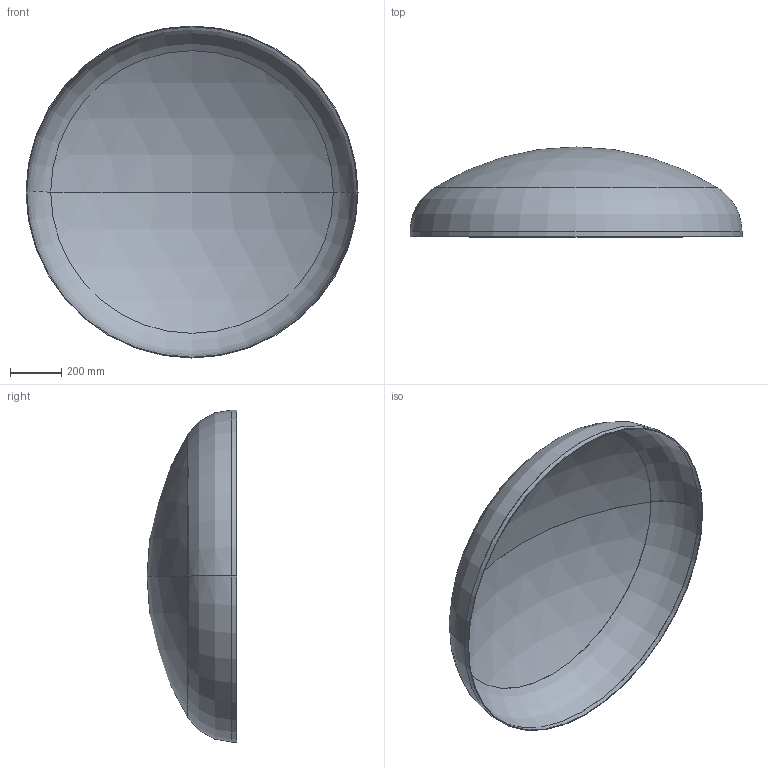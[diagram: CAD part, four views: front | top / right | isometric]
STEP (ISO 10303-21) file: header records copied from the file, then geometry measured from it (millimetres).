
FILE_DESCRIPTION (( 'STEP AP203' ), '1' );
FILE_NAME ('DIN 28013 Korbbogenform_-_Boden DIN 28013 - 1300 x 20 - I - s=3.step', '2016-07-01T09:40:42', ( '' ), ( '' ), 'SwSTEP 2.0', 'SolidWorks 2013', '' );
FILE_SCHEMA (( 'CONFIG_CONTROL_DESIGN' ));
Length unit declared in the file: millimetre
Products named in the file (1): DIN 28013 Korbbogenform_-_Boden DIN 28013 - 1300 x 20 - I - s=3
Bounding box: 1300 x 351.81 x 1300 mm (x, y, z)
Volume: 5742046.9 mm3; surface area: 3840272.5 mm2
Topology: 1 solids, 1 shells, 13 faces, 24 edges, 14 vertices
Faces by surface type: torus 4, cylinder 4, sphere 4, plane 1
Entity records: 407 total; most frequent: DIRECTION 72, CARTESIAN_POINT 52, ORIENTED_EDGE 48, AXIS2_PLACEMENT_3D 34, EDGE_CURVE 24, CIRCLE 20, VERTEX_POINT 14, EDGE_LOOP 14
